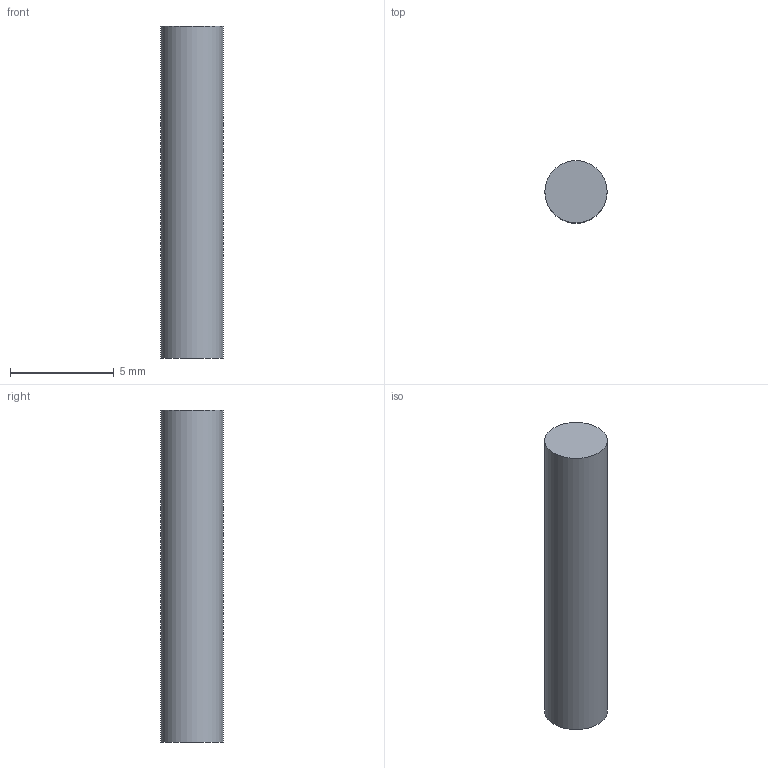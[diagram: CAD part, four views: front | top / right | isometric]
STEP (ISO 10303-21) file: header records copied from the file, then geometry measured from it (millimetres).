
FILE_DESCRIPTION(('Open CASCADE Model'),'2;1');
FILE_NAME('Open CASCADE Shape Model','2026-10-06T03:35:42',('Author'),( 'Open CASCADE'),'Open CASCADE STEP processor 7.8','Open CASCADE 7.8' ,'Unknown');
FILE_SCHEMA(('AUTOMOTIVE_DESIGN { 1 0 10303 214 1 1 1 1 }'));
Length unit declared in the file: millimetre
Products named in the file (1): Open CASCADE STEP translator 7.8 42
Bounding box: 3 x 3 x 16 mm (x, y, z)
Volume: 113.1 mm3; surface area: 164.9 mm2
Topology: 1 solids, 1 shells, 3 faces, 3 edges, 2 vertices
Faces by surface type: plane 2, cylinder 1
Full cylindrical faces by diameter (mm): 3 x1
Entity records: 108 total; most frequent: DIRECTION 19, CARTESIAN_POINT 15, AXIS2_PLACEMENT_3D 6, ORIENTED_EDGE 6, PCURVE 6, DEFINITIONAL_REPRESENTATION 6, LINE 5, VECTOR 5
